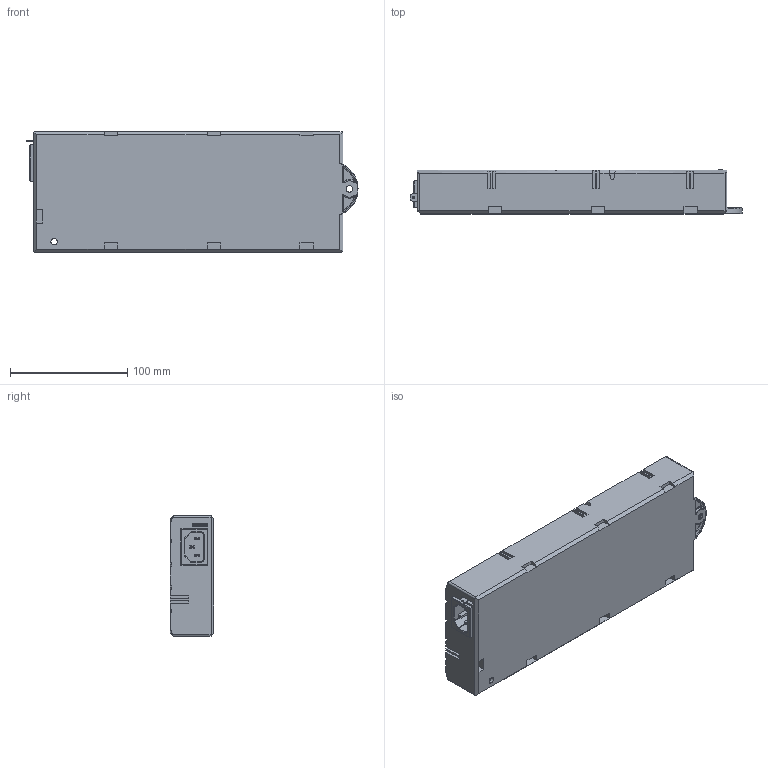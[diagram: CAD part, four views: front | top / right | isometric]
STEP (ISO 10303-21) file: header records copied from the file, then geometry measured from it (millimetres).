
FILE_DESCRIPTION (( 'STEP AP203' ), '1' );
FILE_NAME ('S45-0027.STEP', '2014-01-14T21:49:15', ( '' ), ( '' ), 'SwSTEP 2.0', 'SolidWorks 2013', '' );
FILE_SCHEMA (( 'CONFIG_CONTROL_DESIGN' ));
Length unit declared in the file: millimetre
Products named in the file (5): IEC Power Connector; External Ground; S45-0027; Compact_Body_2; Molex 39-01-3089
Assembly tree (5 placements, depth 2):
  S45-0027
    Compact_Body_2
    Molex 39-01-3089  x2
    IEC Power Connector
    External Ground
Bounding box: 283.25 x 37.45 x 103 mm (x, y, z)
Volume: 967601.2 mm3; surface area: 109623.5 mm2
Topology: 5 solids, 5 shells, 805 faces, 2117 edges, 1356 vertices
Faces by surface type: plane 592, cylinder 125, torus 39, bspline 39, sphere 10
Entity records: 23136 total; most frequent: CARTESIAN_POINT 6092, ORIENTED_EDGE 3578, DIRECTION 3162, EDGE_CURVE 1789, LINE 1370, VECTOR 1370, VERTEX_POINT 1150, AXIS2_PLACEMENT_3D 896
